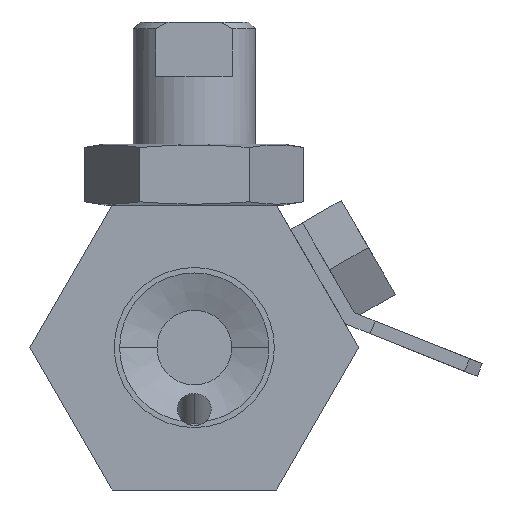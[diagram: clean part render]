
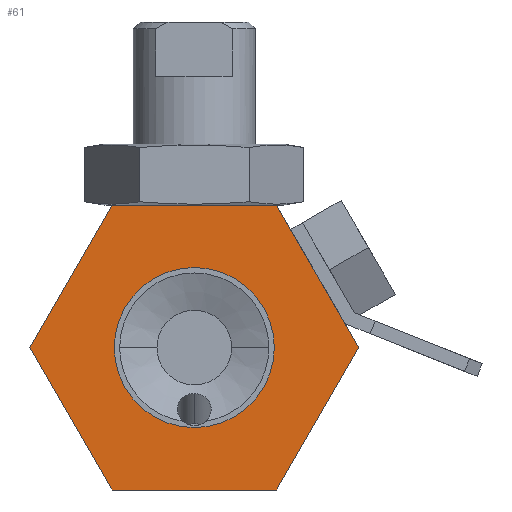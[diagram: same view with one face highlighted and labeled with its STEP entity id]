
A CAD part, front view. The second image highlights one B-rep face of the part: STEP entity #61.
In plain terms, the highlighted planar face has unit normal (0, -1, 0).
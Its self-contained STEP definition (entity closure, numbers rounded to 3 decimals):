
#61 = ADVANCED_FACE ( 'NONE', ( #1472, #1470 ), #331, .F. ) ;
#199 = DIRECTION ( 'NONE',  ( 0., 1., 0. ) ) ;
#330 = CARTESIAN_POINT ( 'NONE',  ( 12.124, 0., 0. ) ) ;
#331 = PLANE ( 'NONE',  #1393 ) ;
#332 = DIRECTION ( 'NONE',  ( 0., 0., 1. ) ) ;
#524 = DIRECTION ( 'NONE',  ( 0.5, 0., -0.866 ) ) ;
#525 = CARTESIAN_POINT ( 'NONE',  ( 6.062, 0., 10.5 ) ) ;
#540 = CARTESIAN_POINT ( 'NONE',  ( 0., 0., 5.9 ) ) ;
#639 = DIRECTION ( 'NONE',  ( 0., 0., -1. ) ) ;
#640 = DIRECTION ( 'NONE',  ( -1., 0., 0. ) ) ;
#647 = DIRECTION ( 'NONE',  ( 0.5, 0., 0.866 ) ) ;
#655 = CARTESIAN_POINT ( 'NONE',  ( 0., 0., 0. ) ) ;
#661 = CARTESIAN_POINT ( 'NONE',  ( 0., 0., 0. ) ) ;
#662 = DIRECTION ( 'NONE',  ( 0., -1., 0. ) ) ;
#663 = DIRECTION ( 'NONE',  ( 0., -1., 0. ) ) ;
#664 = CARTESIAN_POINT ( 'NONE',  ( -12.124, 0., 0. ) ) ;
#680 = CARTESIAN_POINT ( 'NONE',  ( 6.062, 0., -10.5 ) ) ;
#681 = CARTESIAN_POINT ( 'NONE',  ( -6.062, 0., -10.5 ) ) ;
#683 = DIRECTION ( 'NONE',  ( 0., 0., -1. ) ) ;
#685 = DIRECTION ( 'NONE',  ( -0.5, 0., 0.866 ) ) ;
#740 = DIRECTION ( 'NONE',  ( 1., 0., 0. ) ) ;
#748 = CARTESIAN_POINT ( 'NONE',  ( -6.062, 0., 10.5 ) ) ;
#882 = CARTESIAN_POINT ( 'NONE',  ( 0., 0., -5.9 ) ) ;
#1156 = CARTESIAN_POINT ( 'NONE',  ( 6.062, 0., 10.5 ) ) ;
#1157 = CARTESIAN_POINT ( 'NONE',  ( -12.124, 0., 0. ) ) ;
#1159 = CARTESIAN_POINT ( 'NONE',  ( -6.062, 0., 10.5 ) ) ;
#1192 = CARTESIAN_POINT ( 'NONE',  ( -6.062, 0., -10.5 ) ) ;
#1303 = CARTESIAN_POINT ( 'NONE',  ( 6.062, 0., -10.5 ) ) ;
#1360 = CARTESIAN_POINT ( 'NONE',  ( 12.124, 0., 0. ) ) ;
#1393 = AXIS2_PLACEMENT_3D ( 'NONE', #330, #199, #332 ) ;
#1410 = AXIS2_PLACEMENT_3D ( 'NONE', #661, #663, #639 ) ;
#1411 = AXIS2_PLACEMENT_3D ( 'NONE', #655, #662, #683 ) ;
#1470 = FACE_OUTER_BOUND ( 'NONE', #2647, .T. ) ;
#1472 = FACE_BOUND ( 'NONE', #2724, .T. ) ;
#1496 = VECTOR ( 'NONE', #740, 1000. ) ;
#1501 = LINE ( 'NONE', #748, #1496 ) ;
#1509 = LINE ( 'NONE', #680, #1512 ) ;
#1510 = CIRCLE ( 'NONE', #1410, 5.9 ) ;
#1512 = VECTOR ( 'NONE', #640, 1000. ) ;
#1513 = CIRCLE ( 'NONE', #1411, 5.9 ) ;
#1519 = LINE ( 'NONE', #664, #1523 ) ;
#1523 = VECTOR ( 'NONE', #647, 1000. ) ;
#1567 = EDGE_CURVE ( 'NONE', #3178, #3182, #1519, .T. ) ;
#1570 = EDGE_CURVE ( 'NONE', #3020, #3015, #1513, .T. ) ;
#1572 = EDGE_CURVE ( 'NONE', #3015, #3020, #1510, .T. ) ;
#1574 = EDGE_CURVE ( 'NONE', #3082, #3170, #1509, .T. ) ;
#1582 = EDGE_CURVE ( 'NONE', #3182, #3177, #1501, .T. ) ;
#1611 = EDGE_CURVE ( 'NONE', #3170, #3178, #3678, .T. ) ;
#1661 = EDGE_CURVE ( 'NONE', #3177, #3106, #3596, .T. ) ;
#1838 = DIRECTION ( 'NONE',  ( -0.5, 0., -0.866 ) ) ;
#1861 = CARTESIAN_POINT ( 'NONE',  ( 12.124, 0., 0. ) ) ;
#2244 = ORIENTED_EDGE ( 'NONE', *, *, #1567, .F. ) ;
#2245 = ORIENTED_EDGE ( 'NONE', *, *, #1582, .F. ) ;
#2246 = ORIENTED_EDGE ( 'NONE', *, *, #1574, .F. ) ;
#2247 = ORIENTED_EDGE ( 'NONE', *, *, #1611, .F. ) ;
#2253 = ORIENTED_EDGE ( 'NONE', *, *, #3826, .F. ) ;
#2287 = ORIENTED_EDGE ( 'NONE', *, *, #1570, .F. ) ;
#2378 = ORIENTED_EDGE ( 'NONE', *, *, #1572, .F. ) ;
#2593 = ORIENTED_EDGE ( 'NONE', *, *, #1661, .F. ) ;
#2647 = EDGE_LOOP ( 'NONE', ( #2593, #2245, #2244, #2247, #2246, #2253 ) ) ;
#2724 = EDGE_LOOP ( 'NONE', ( #2287, #2378 ) ) ;
#3015 = VERTEX_POINT ( 'NONE', #540 ) ;
#3020 = VERTEX_POINT ( 'NONE', #882 ) ;
#3082 = VERTEX_POINT ( 'NONE', #1303 ) ;
#3106 = VERTEX_POINT ( 'NONE', #1360 ) ;
#3170 = VERTEX_POINT ( 'NONE', #1192 ) ;
#3177 = VERTEX_POINT ( 'NONE', #1156 ) ;
#3178 = VERTEX_POINT ( 'NONE', #1157 ) ;
#3182 = VERTEX_POINT ( 'NONE', #1159 ) ;
#3315 = VECTOR ( 'NONE', #1838, 1000. ) ;
#3358 = LINE ( 'NONE', #1861, #3315 ) ;
#3596 = LINE ( 'NONE', #525, #3597 ) ;
#3597 = VECTOR ( 'NONE', #524, 1000. ) ;
#3678 = LINE ( 'NONE', #681, #3694 ) ;
#3694 = VECTOR ( 'NONE', #685, 1000. ) ;
#3826 = EDGE_CURVE ( 'NONE', #3106, #3082, #3358, .T. ) ;
